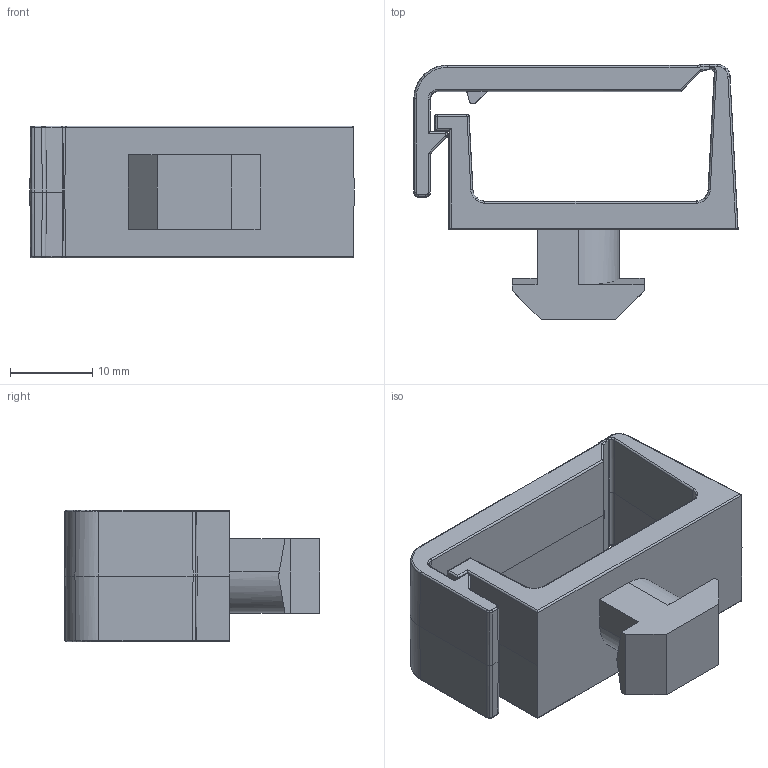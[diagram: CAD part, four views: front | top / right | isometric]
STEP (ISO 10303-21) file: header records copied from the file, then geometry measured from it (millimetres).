
FILE_DESCRIPTION (( 'STEP AP203' ), '1' );
FILE_NAME ('412045_Kabelträger PA Nut 10 ohne Trennsteg.step', '2022-06-08T08:32:20', ( '' ), ( '' ), 'SwSTEP 2.0', 'SolidWorks 2021', '' );
FILE_SCHEMA (( 'CONFIG_CONTROL_DESIGN' ));
Length unit declared in the file: millimetre
Products named in the file (1): 412045_Kabelträger PA Nut 10 ohne Trennsteg
Bounding box: 39.34 x 31 x 16 mm (x, y, z)
Volume: 6299.5 mm3; surface area: 4859.6 mm2
Topology: 2 solids, 2 shells, 184 faces, 427 edges, 248 vertices
Faces by surface type: cylinder 78, plane 70, bspline 33, cone 3
Entity records: 5660 total; most frequent: CARTESIAN_POINT 1796, ORIENTED_EDGE 854, DIRECTION 696, EDGE_CURVE 427, VERTEX_POINT 248, LINE 244, VECTOR 244, AXIS2_PLACEMENT_3D 226
